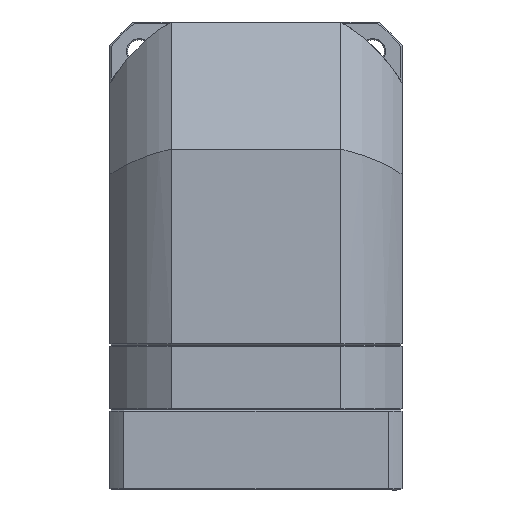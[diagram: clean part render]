
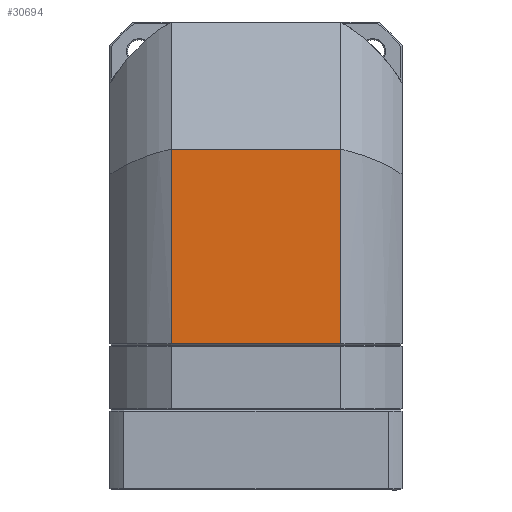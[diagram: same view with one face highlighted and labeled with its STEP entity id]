
A CAD part, front view. The second image highlights one B-rep face of the part: STEP entity #30694.
In plain terms, the highlighted planar face has unit normal (0, 1, 0).
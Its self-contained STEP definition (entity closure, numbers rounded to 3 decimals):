
#11610 = DIRECTION ( 'NONE',  ( 0., 0., 1. ) ) ;
#13922 = VERTEX_POINT ( 'NONE', #58326 ) ;
#14787 = CARTESIAN_POINT ( 'NONE',  ( -33.407, -216.611, -69.2 ) ) ;
#16785 = VERTEX_POINT ( 'NONE', #14787 ) ;
#17541 = LINE ( 'NONE', #89390, #54427 ) ;
#18746 = DIRECTION ( 'NONE',  ( 0., 0., 1. ) ) ;
#22429 = EDGE_CURVE ( 'NONE', #16785, #13922, #29272, .T. ) ;
#29272 = LINE ( 'NONE', #54302, #84477 ) ;
#30694 = ADVANCED_FACE ( 'NONE', ( #57045 ), #57451, .F. ) ;
#42029 = DIRECTION ( 'NONE',  ( 0., -1., 0. ) ) ;
#44143 = DIRECTION ( 'NONE',  ( 1., 0., 0. ) ) ;
#45513 = ORIENTED_EDGE ( 'NONE', *, *, #73481, .T. ) ;
#54302 = CARTESIAN_POINT ( 'NONE',  ( -33.407, -216.611, -30.62 ) ) ;
#54427 = VECTOR ( 'NONE', #18746, 1000. ) ;
#56740 = EDGE_CURVE ( 'NONE', #16785, #74112, #100327, .T. ) ;
#57045 = FACE_OUTER_BOUND ( 'NONE', #62238, .T. ) ;
#57451 = PLANE ( 'NONE',  #86870 ) ;
#58314 = CARTESIAN_POINT ( 'NONE',  ( 33.407, -216.611, -69.2 ) ) ;
#58326 = CARTESIAN_POINT ( 'NONE',  ( -33.407, -216.611, 7.5 ) ) ;
#61068 = EDGE_CURVE ( 'NONE', #74112, #90013, #17541, .T. ) ;
#62238 = EDGE_LOOP ( 'NONE', ( #93038, #96317, #73771, #45513 ) ) ;
#62589 = CARTESIAN_POINT ( 'NONE',  ( 0., -216.611, 7.5 ) ) ;
#69859 = CARTESIAN_POINT ( 'NONE',  ( 33.407, -216.611, 7.5 ) ) ;
#73481 = EDGE_CURVE ( 'NONE', #13922, #90013, #97320, .T. ) ;
#73771 = ORIENTED_EDGE ( 'NONE', *, *, #22429, .T. ) ;
#74112 = VERTEX_POINT ( 'NONE', #58314 ) ;
#78339 = DIRECTION ( 'NONE',  ( 1., 0., 0. ) ) ;
#79600 = VECTOR ( 'NONE', #44143, 1000. ) ;
#83211 = CARTESIAN_POINT ( 'NONE',  ( 0., -216.611, -69.2 ) ) ;
#84477 = VECTOR ( 'NONE', #11610, 1000. ) ;
#86870 = AXIS2_PLACEMENT_3D ( 'NONE', #88924, #42029, #96758 ) ;
#88924 = CARTESIAN_POINT ( 'NONE',  ( -33.407, -216.611, -69.2 ) ) ;
#89390 = CARTESIAN_POINT ( 'NONE',  ( 33.407, -216.611, -30.85 ) ) ;
#90013 = VERTEX_POINT ( 'NONE', #69859 ) ;
#93038 = ORIENTED_EDGE ( 'NONE', *, *, #61068, .F. ) ;
#94876 = VECTOR ( 'NONE', #78339, 1000. ) ;
#96317 = ORIENTED_EDGE ( 'NONE', *, *, #56740, .F. ) ;
#96758 = DIRECTION ( 'NONE',  ( 1., 0., 0. ) ) ;
#97320 = LINE ( 'NONE', #62589, #94876 ) ;
#100327 = LINE ( 'NONE', #83211, #79600 ) ;
